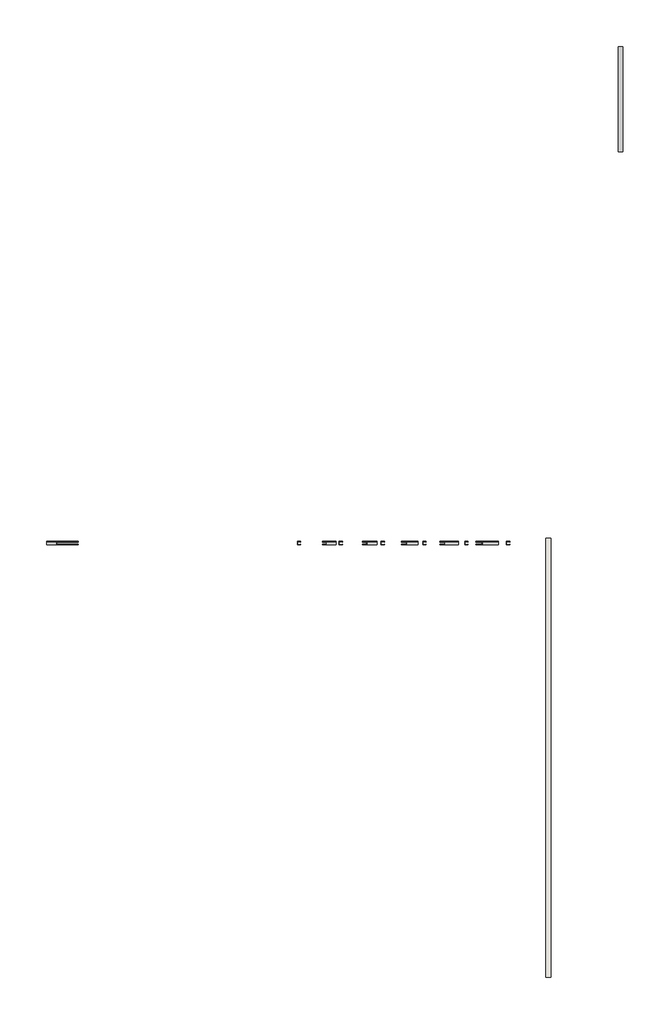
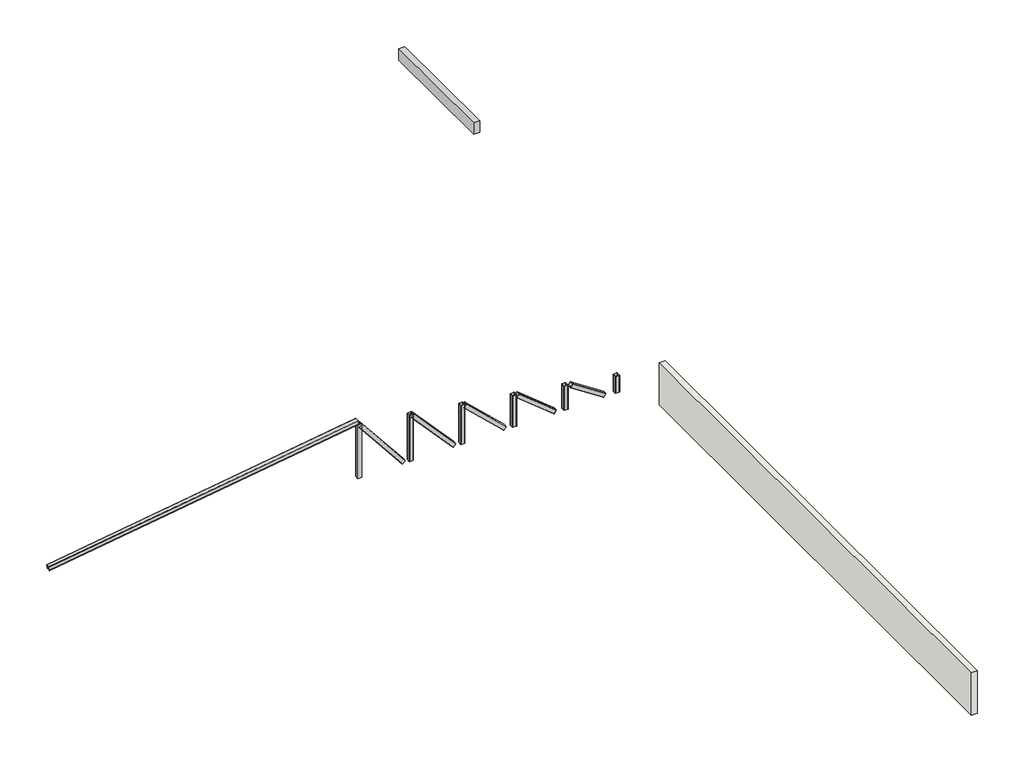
# One storey: 13 beams, 1 wall.
"""IFC4 building model written with IfcOpenShell, lengths in millimetres."""

from ifc_helpers import new_model, si_unit, frame, origin, place, context, project, spatial, polyline, circle_curve, ellipse_curve, outline, extrude, faceted_brep, transform, mapped, element, save
from ifc_brep_helpers import plane_surface, cylinder_surface, revolved_surface, advanced_brep
from components import viga_c_10x10_807e0190, viga_c_10x10_6c39ab91, viga_c_10x10_02f73f95, viga_c_10x10_16984cbe, viga_c_10x10_c70f78b9, viga_c_10x10_5042731d, viga_c_10x10_f4694822, viga_c_10x10_a6dcdae2, viga_c_10x10_49eaffbf, viga_c_10x10_ae3c0a91, viga_c_10x10_5618c6b7

model = new_model("IFC4")

# Units and contexts
model_context = context("Model", 3, world=origin())
ifc_project = project(units=[si_unit("LENGTHUNIT", "METRE", prefix="MILLI")], contexts=[model_context])

# Site, building, storey
site = spatial("IfcSite", under=ifc_project)
building = spatial("IfcBuilding", under=site)
storey = spatial("IfcBuildingStorey", under=building, Name="NÍVEL LAJE", Elevation=4000.0)

# Beams
placement = place(None, origin())
element("IfcBeam", 1, ObjectType="VIGA PERFIL C AÇO : VIGA C 10X10", at=placement, inside=storey, context=model_context, shape_type="SolidModel", body=[
    advanced_brep(
    [(-3864.3112112, 9465.0563425, 5156.3583218), (-3863.7475175, 9468.8563425, 5152.6003637), (-3850.0408597, 9468.8563425, 5061.2226447), (-3849.4771659, 9465.0563425, 5057.4646865), (-3849.4771659, 9448.8563425, 5057.4646865), (-3849.7590128, 9448.8563425, 5059.3436656), (-3849.7590128, 9465.0563425, 5059.3436656), (-3850.0408597, 9466.9563425, 5061.2226447), (-3863.7475175, 9466.9563425, 5152.6003637), (-3864.0293644, 9465.0563425, 5154.4793427), (-3864.0293644, 9372.6563425, 5154.4793427), (-3863.7475175, 9370.7563425, 5152.6003637), (-3850.0408597, 9370.7563425, 5061.2226447), (-3849.7590128, 9372.6563425, 5059.3436656), (-3849.7590128, 9388.8563425, 5059.3436656), (-3849.4771659, 9388.8563425, 5057.4646865), (-3849.4771659, 9372.6563425, 5057.4646865), (-3850.0408597, 9368.8563425, 5061.2226447), (-3863.7475175, 9368.8563425, 5152.6003637), (-3864.3112112, 9372.6563425, 5156.3583218), (3776.8201839, 9372.6563425, 6302.5280311), (3776.8201839, 9465.0563425, 6302.5280311), (3776.8201839, 9368.8563425, 6298.6855189), (3776.8201839, 9368.8563425, 6205.2518012), (3776.8201839, 9372.6563425, 6201.409289), (3776.8201839, 9388.8563425, 6201.409289), (3776.8201839, 9388.8563425, 6203.3305451), (3776.8201839, 9372.6563425, 6203.3305451), (3776.8201839, 9370.7563425, 6205.2518012), (3776.8201839, 9370.7563425, 6298.6855189), (3776.8201839, 9372.6563425, 6300.606775), (3776.8201839, 9465.0563425, 6300.606775), (3776.8201839, 9466.9563425, 6298.6855189), (3776.8201839, 9466.9563425, 6205.2518012), (3776.8201839, 9465.0563425, 6203.3305451), (3776.8201839, 9448.8563425, 6203.3305451), (3776.8201839, 9448.8563425, 6201.409289), (3776.8201839, 9465.0563425, 6201.409289), (3776.8201839, 9468.8563425, 6205.2518012), (3776.8201839, 9468.8563425, 6298.6855189)],
    [
        (0, 1, circle_curve(frame((-3863.7475175, 9465.0563425, 5152.6003637), z_axis=(-0.9889363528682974, 0.0, -0.14834045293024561), x_axis=(0.14834045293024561, 0.0, -0.9889363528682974)), 3.8)),
        (1, 2),
        (2, 3, circle_curve(frame((-3850.0408597, 9465.0563425, 5061.2226447), z_axis=(-0.9889363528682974, 0.0, -0.14834045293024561), x_axis=(0.14834045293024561, 0.0, -0.9889363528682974)), 3.8)),
        (3, 4),
        (4, 5),
        (5, 6),
        (6, 7, circle_curve(frame((-3850.0408597, 9465.0563425, 5061.2226447), z_axis=(0.9889363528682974, 0.0, 0.14834045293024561), x_axis=(0.14834045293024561, 0.0, -0.9889363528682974)), 1.9)),
        (7, 8),
        (8, 9, circle_curve(frame((-3863.7475175, 9465.0563425, 5152.6003637), z_axis=(0.9889363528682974, 0.0, 0.14834045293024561), x_axis=(0.14834045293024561, 0.0, -0.9889363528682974)), 1.9)),
        (9, 10),
        (10, 11, circle_curve(frame((-3863.7475175, 9372.6563425, 5152.6003637), z_axis=(0.9889363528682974, 0.0, 0.14834045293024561), x_axis=(0.14834045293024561, 0.0, -0.9889363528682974)), 1.9)),
        (11, 12),
        (12, 13, circle_curve(frame((-3850.0408597, 9372.6563425, 5061.2226447), z_axis=(0.9889363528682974, 0.0, 0.14834045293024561), x_axis=(0.14834045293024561, 0.0, -0.9889363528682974)), 1.9)),
        (13, 14),
        (14, 15),
        (15, 16),
        (16, 17, circle_curve(frame((-3850.0408597, 9372.6563425, 5061.2226447), z_axis=(-0.9889363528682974, 0.0, -0.14834045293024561), x_axis=(0.14834045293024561, 0.0, -0.9889363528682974)), 3.8)),
        (17, 18),
        (18, 19, circle_curve(frame((-3863.7475175, 9372.6563425, 5152.6003637), z_axis=(-0.9889363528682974, 0.0, -0.14834045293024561), x_axis=(0.14834045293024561, 0.0, -0.9889363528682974)), 3.8)),
        (19, 0),
        (20, 21),
        (21, 0),
        (19, 20),
        (22, 20, ellipse_curve(frame((3776.8201839, 9372.6563425, 6298.6855189), z_axis=(-1.0, 0.0, 0.0), x_axis=(0.0, 0.0, 1.0)), 3.8425122, 3.8)),
        (18, 22),
        (23, 22),
        (17, 23),
        (24, 23, ellipse_curve(frame((3776.8201839, 9372.6563425, 6205.2518012), z_axis=(-1.0, 0.0, 0.0), x_axis=(0.0, 0.0, 1.0)), 3.8425122, 3.8)),
        (16, 24),
        (25, 24),
        (15, 25),
        (26, 25),
        (14, 26),
        (27, 26),
        (13, 27),
        (28, 27, ellipse_curve(frame((3776.8201839, 9372.6563425, 6205.2518012), z_axis=(1.0, 0.0, 0.0), x_axis=(0.0, 0.0, -1.0)), 1.9212561, 1.9)),
        (12, 28),
        (29, 28),
        (11, 29),
        (30, 29, ellipse_curve(frame((3776.8201839, 9372.6563425, 6298.6855189), z_axis=(1.0, 0.0, 0.0), x_axis=(0.0, 0.0, -1.0)), 1.9212561, 1.9)),
        (10, 30),
        (31, 30),
        (9, 31),
        (32, 31, ellipse_curve(frame((3776.8201839, 9465.0563425, 6298.6855189), z_axis=(1.0, 0.0, 0.0), x_axis=(0.0, 0.0, -1.0)), 1.9212561, 1.9)),
        (8, 32),
        (33, 32),
        (7, 33),
        (34, 33, ellipse_curve(frame((3776.8201839, 9465.0563425, 6205.2518012), z_axis=(1.0, 0.0, 0.0), x_axis=(0.0, 0.0, -1.0)), 1.9212561, 1.9)),
        (6, 34),
        (35, 34),
        (5, 35),
        (36, 35),
        (4, 36),
        (37, 36),
        (3, 37),
        (38, 37, ellipse_curve(frame((3776.8201839, 9465.0563425, 6205.2518012), z_axis=(-1.0, 0.0, 0.0), x_axis=(0.0, 0.0, 1.0)), 3.8425122, 3.8)),
        (2, 38),
        (39, 38),
        (1, 39),
        (21, 39, ellipse_curve(frame((3776.8201839, 9465.0563425, 6298.6855189), z_axis=(-1.0, 0.0, 0.0), x_axis=(0.0, 0.0, 1.0)), 3.8425122, 3.8)),
    ],
    [
        plane_surface(frame((-3864.3112112, 9418.8563425, 5156.3583218), z_axis=(-0.9889363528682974, 0.0, -0.14834045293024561), x_axis=(0.0, -1.0, 0.0))),
        plane_surface(frame((3775.2221147, 9465.0563425, 6302.2883207), z_axis=(-0.14834045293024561, 0.0, 0.9889363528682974), x_axis=(-0.9889363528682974, 0.0, -0.14834045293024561))),
        cylinder_surface(frame((3775.7858084, 9372.6563425, 6298.5303625), z_axis=(0.9889363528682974, 0.0, 0.14834045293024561), x_axis=(0.14834045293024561, 0.0, -0.9889363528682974)), 3.8),
        plane_surface(frame((3775.7858084, 9368.8563425, 6298.5303625), z_axis=(0.0, -1.0, 0.0), x_axis=(-0.9889363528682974, 0.0, -0.14834045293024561))),
        cylinder_surface(frame((3789.4924662, 9372.6563425, 6207.1526435), z_axis=(0.9889363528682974, 0.0, 0.14834045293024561), x_axis=(0.14834045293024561, 0.0, -0.9889363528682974)), 3.8),
        plane_surface(frame((3790.05616, 9372.6563425, 6203.3946854), z_axis=(0.14834045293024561, 0.0, -0.9889363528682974), x_axis=(-0.9889363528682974, 0.0, -0.14834045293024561))),
        plane_surface(frame((3790.05616, 9388.8563425, 6203.3946854), z_axis=(0.0, 1.0, 0.0), x_axis=(-0.9889363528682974, 0.0, -0.14834045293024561))),
        plane_surface(frame((3789.7743131, 9388.8563425, 6205.2736645), z_axis=(-0.14834045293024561, 0.0, 0.9889363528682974), x_axis=(-0.9889363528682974, 0.0, -0.14834045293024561))),
        revolved_surface(polyline([(-3849.7590128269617, 9372.6563425, 5059.343665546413), (3777.3838776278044, 9372.6563425, 6203.415099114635)]), (3789.4924662, 9372.6563425, 6207.1526435), (-0.9889363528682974, 0.0, -0.14834045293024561)),
        plane_surface(frame((3789.4924662, 9370.7563425, 6207.1526435), z_axis=(0.0, 1.0, 0.0), x_axis=(-0.9889363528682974, 0.0, -0.14834045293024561))),
        revolved_surface(polyline([(-3863.4656706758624, 9372.6563425, 5150.721384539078), (3777.3838776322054, 9372.6563425, 6296.848816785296)]), (3775.7858084, 9372.6563425, 6298.5303625), (-0.9889363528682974, 0.0, -0.14834045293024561)),
        plane_surface(frame((3775.5039615, 9372.6563425, 6300.4093416), z_axis=(0.14834045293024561, 0.0, -0.9889363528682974), x_axis=(-0.9889363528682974, 0.0, -0.14834045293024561))),
        revolved_surface(polyline([(-3863.4656706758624, 9465.0563425, 5150.721384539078), (3777.3838776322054, 9465.0563425, 6296.848816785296)]), (3775.7858084, 9465.0563425, 6298.5303625), (-0.9889363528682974, 0.0, -0.14834045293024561)),
        plane_surface(frame((3775.7858084, 9466.9563425, 6298.5303625), z_axis=(0.0, -1.0, 0.0), x_axis=(-0.9889363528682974, 0.0, -0.14834045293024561))),
        revolved_surface(polyline([(-3849.7590128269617, 9465.0563425, 5059.343665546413), (3777.3838776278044, 9465.0563425, 6203.415099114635)]), (3789.4924662, 9465.0563425, 6207.1526435), (-0.9889363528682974, 0.0, -0.14834045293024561)),
        plane_surface(frame((3789.7743131, 9465.0563425, 6205.2736645), z_axis=(-0.14834045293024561, 0.0, 0.9889363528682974), x_axis=(-0.9889363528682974, 0.0, -0.14834045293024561))),
        plane_surface(frame((3789.7743131, 9448.8563425, 6205.2736645), z_axis=(0.0, -1.0, 0.0), x_axis=(-0.9889363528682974, 0.0, -0.14834045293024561))),
        plane_surface(frame((3790.05616, 9448.8563425, 6203.3946854), z_axis=(0.14834045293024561, 0.0, -0.9889363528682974), x_axis=(-0.9889363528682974, 0.0, -0.14834045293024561))),
        cylinder_surface(frame((3789.4924662, 9465.0563425, 6207.1526435), z_axis=(0.9889363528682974, 0.0, 0.14834045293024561), x_axis=(0.14834045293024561, 0.0, -0.9889363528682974)), 3.8),
        plane_surface(frame((3789.4924662, 9468.8563425, 6207.1526435), z_axis=(0.0, 1.0, 0.0), x_axis=(-0.9889363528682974, 0.0, -0.14834045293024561))),
        cylinder_surface(frame((3775.7858084, 9465.0563425, 6298.5303625), z_axis=(0.9889363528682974, 0.0, 0.14834045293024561), x_axis=(0.14834045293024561, 0.0, -0.9889363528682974)), 3.8),
        plane_surface(frame((3776.8201839, 9418.8563425, 6302.5280311), z_axis=(1.0, 0.0, 0.0), x_axis=(0.0, -1.0, 0.0))),
    ],
    [
        (0, [[1, 2, 3, 4, 5, 6, 7, 8, 9, 10, 11, 12, 13, 14, 15, 16, 17, 18, 19, 20]]),
        (1, [[21, 22, -20, 23]]),
        (2, [[24, -23, -19, 25]]),
        (3, [[26, -25, -18, 27]]),
        (4, [[28, -27, -17, 29]]),
        (5, [[30, -29, -16, 31]]),
        (6, [[32, -31, -15, 33]]),
        (7, [[34, -33, -14, 35]]),
        (8, [[36, -35, -13, 37]]),
        (9, [[38, -37, -12, 39]]),
        (10, [[40, -39, -11, 41]]),
        (11, [[42, -41, -10, 43]]),
        (12, [[44, -43, -9, 45]]),
        (13, [[46, -45, -8, 47]]),
        (14, [[48, -47, -7, 49]]),
        (15, [[50, -49, -6, 51]]),
        (16, [[52, -51, -5, 53]]),
        (17, [[54, -53, -4, 55]]),
        (18, [[56, -55, -3, 57]]),
        (19, [[58, -57, -2, 59]]),
        (20, [[60, -59, -1, -22]]),
        (21, [[-21, -24, -26, -28, -30, -32, -34, -36, -38, -40, -42, -44, -46, -48, -50, -52, -54, -56, -58, -60]]),
    ],
),
    faceted_brep([(-3864.3112112, 9468.8563425, 5156.3583218), (-3849.4771659, 9468.8563425, 5057.4646865), (-3849.4771659, 9448.8563425, 5057.4646865), (-3849.7590128, 9448.8563425, 5059.3436656), (-3849.7590128, 9466.9563425, 5059.3436656), (-3864.0293644, 9466.9563425, 5154.4793427), (-3864.0293644, 9370.7563425, 5154.4793427), (-3849.7590128, 9370.7563425, 5059.3436656), (-3849.7590128, 9388.8563425, 5059.3436656), (-3849.4771659, 9388.8563425, 5057.4646865), (-3849.4771659, 9368.8563425, 5057.4646865), (-3864.3112112, 9368.8563425, 5156.3583218), (3776.8201839, 9368.8563425, 6302.5280311), (3776.8201839, 9468.8563425, 6302.5280311), (3776.8201839, 9368.8563425, 6201.409289), (3776.8201839, 9388.8563425, 6201.409289), (3776.8201839, 9388.8563425, 6203.3305451), (3776.8201839, 9370.7563425, 6203.3305451), (3776.8201839, 9370.7563425, 6300.606775), (3776.8201839, 9466.9563425, 6300.606775), (3776.8201839, 9466.9563425, 6203.3305451), (3776.8201839, 9448.8563425, 6203.3305451), (3776.8201839, 9448.8563425, 6201.409289), (3776.8201839, 9468.8563425, 6201.409289)], [[[0, 1, 2, 3, 4, 5, 6, 7, 8, 9, 10, 11]], [[12, 13, 0, 11]], [[14, 12, 11, 10]], [[15, 14, 10, 9]], [[16, 15, 9, 8]], [[17, 16, 8, 7]], [[18, 17, 7, 6]], [[19, 18, 6, 5]], [[20, 19, 5, 4]], [[21, 20, 4, 3]], [[22, 21, 3, 2]], [[23, 22, 2, 1]], [[13, 23, 1, 0]], [[13, 12, 14, 15, 16, 17, 18, 19, 20, 21, 22, 23]]]),
])
viga_c_10x10_shape = viga_c_10x10_807e0190(model_context)
element("IfcBeam", 2, ObjectType="VIGA PERFIL C AÇO : VIGA C 10X10", at=placement, inside=storey, context=model_context, shape_type="MappedRepresentation", body=[
    mapped(viga_c_10x10_shape, transform((10143.4868505, 9418.8563425, 5019.1125534), x_axis=(0.0, 0.0, 1.0), y_axis=(-1.0, 0.0, 0.0), z_axis=(0.0, -1.0, 0.0))),
])
viga_c_10x10_2_shape = viga_c_10x10_6c39ab91(model_context)
element("IfcBeam", 3, ObjectType="VIGA PERFIL C AÇO : VIGA C 10X10", at=placement, inside=storey, context=model_context, shape_type="MappedRepresentation", body=[
    mapped(viga_c_10x10_2_shape, transform((8870.1535172, 9418.8563425, 5114.6125534), x_axis=(0.0, 0.0, 1.0), y_axis=(-1.0, 0.0, 0.0), z_axis=(0.0, -1.0, 0.0))),
])
viga_c_10x10_3_shape = viga_c_10x10_02f73f95(model_context)
element("IfcBeam", 4, ObjectType="VIGA PERFIL C AÇO : VIGA C 10X10", at=placement, inside=storey, context=model_context, shape_type="MappedRepresentation", body=[
    mapped(viga_c_10x10_3_shape, transform((7596.8201839, 9418.8563425, 5210.1125534), x_axis=(0.0, 0.0, 1.0), y_axis=(-1.0, 0.0, 0.0), z_axis=(0.0, -1.0, 0.0))),
])
viga_c_10x10_4_shape = viga_c_10x10_16984cbe(model_context)
element("IfcBeam", 5, ObjectType="VIGA PERFIL C AÇO : VIGA C 10X10", at=placement, inside=storey, context=model_context, shape_type="MappedRepresentation", body=[
    mapped(viga_c_10x10_4_shape, transform((6323.4868505, 9418.8563425, 5305.6125534), x_axis=(0.0, 0.0, 1.0), y_axis=(-1.0, 0.0, 0.0), z_axis=(0.0, -1.0, 0.0))),
])
viga_c_10x10_5_shape = viga_c_10x10_c70f78b9(model_context)
element("IfcBeam", 6, ObjectType="VIGA PERFIL C AÇO : VIGA C 10X10", at=placement, inside=storey, context=model_context, shape_type="MappedRepresentation", body=[
    mapped(viga_c_10x10_5_shape, transform((5050.1535172, 9418.8563425, 5401.1125534), x_axis=(0.0, 0.0, 1.0), y_axis=(-1.0, 0.0, 0.0), z_axis=(0.0, -1.0, 0.0))),
])
viga_c_10x10_6_shape = viga_c_10x10_5042731d(model_context)
element("IfcBeam", 7, ObjectType="VIGA PERFIL C AÇO : VIGA C 10X10", at=placement, inside=storey, context=model_context, shape_type="MappedRepresentation", body=[
    mapped(viga_c_10x10_6_shape, transform((3776.8201839, 9418.8563425, 5496.6125534), x_axis=(0.0, 0.0, 1.0), y_axis=(-1.0, 0.0, 0.0), z_axis=(0.0, -1.0, 0.0))),
])
viga_c_10x10_7_shape = viga_c_10x10_f4694822(model_context)
element("IfcBeam", 8, ObjectType="VIGA PERFIL C AÇO : VIGA C 10X10", at=placement, inside=storey, context=model_context, shape_type="MappedRepresentation", body=[
    mapped(viga_c_10x10_7_shape, transform((9506.8201839, 9418.8563425, 5114.6125534), x_axis=(0.83797466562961, 0.0, -0.5457091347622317), y_axis=(0.5457091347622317, 0.0, 0.83797466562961), z_axis=(0.0, -1.0, 0.0))),
])
viga_c_10x10_8_shape = viga_c_10x10_a6dcdae2(model_context)
element("IfcBeam", 9, ObjectType="VIGA PERFIL C AÇO : VIGA C 10X10", at=placement, inside=storey, context=model_context, shape_type="MappedRepresentation", body=[
    mapped(viga_c_10x10_8_shape, transform((8233.4868505, 9418.8563425, 5210.1125534), x_axis=(0.7804026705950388, 0.0, -0.6252772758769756), y_axis=(0.6252772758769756, 0.0, 0.7804026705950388), z_axis=(0.0, -1.0, 0.0))),
])
viga_c_10x10_9_shape = viga_c_10x10_49eaffbf(model_context)
element("IfcBeam", 10, ObjectType="VIGA PERFIL C AÇO : VIGA C 10X10", at=placement, inside=storey, context=model_context, shape_type="MappedRepresentation", body=[
    mapped(viga_c_10x10_9_shape, transform((6960.1535172, 9418.8563425, 5305.6125534), x_axis=(0.7245564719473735, 0.0, -0.6892154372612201), y_axis=(0.6892154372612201, 0.0, 0.7245564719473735), z_axis=(0.0, -1.0, 0.0))),
])
viga_c_10x10_10_shape = viga_c_10x10_ae3c0a91(model_context)
element("IfcBeam", 11, ObjectType="VIGA PERFIL C AÇO : VIGA C 10X10", at=placement, inside=storey, context=model_context, shape_type="MappedRepresentation", body=[
    mapped(viga_c_10x10_10_shape, transform((5686.8201839, 9418.8563425, 5401.1125534), x_axis=(0.6722631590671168, 0.0, -0.7403122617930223), y_axis=(0.7403122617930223, 0.0, 0.6722631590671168), z_axis=(0.0, -1.0, 0.0))),
])
viga_c_10x10_11_shape = viga_c_10x10_5618c6b7(model_context)
element("IfcBeam", 12, ObjectType="VIGA PERFIL C AÇO : VIGA C 10X10", at=placement, inside=storey, context=model_context, shape_type="MappedRepresentation", body=[
    mapped(viga_c_10x10_11_shape, transform((4413.4868505, 9418.8563425, 5496.6125534), x_axis=(0.6243222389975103, 0.0, -0.781166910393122), y_axis=(0.781166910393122, 0.0, 0.6243222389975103), z_axis=(0.0, -1.0, 0.0))),
])
element("IfcBeam", 13, ObjectType="VIGA CONCRETO : 15X30", at=placement, inside=storey, context=model_context, shape_type="SweptSolid", body=[
    extrude(outline(polyline([(13528.4025194, 24518.8563425), (13678.4025194, 24518.8563425), (13678.4025194, 21318.8563425), (13528.4025194, 21318.8563425), (13528.4025194, 24518.8563425)])), frame((0.0, 0.0, 3120.0), z_axis=(0.0, 0.0, 1.0), x_axis=(1.0, 0.0, 0.0)), (0.0, 0.0, 1.0), 300.0),
])

# Wall
element("IfcWall", 14, ObjectType="PAREDE BÁSICA 15 cm", at=placement, inside=storey, context=model_context, shape_type="SweptSolid", body=[
    extrude(outline(polyline([(11326.8201839, -3788.2411617), (11326.8201839, 9566.7588383), (11476.8201839, 9566.7588383), (11476.8201839, -3788.2411617), (11326.8201839, -3788.2411617)])), frame((0.0, 0.0, 3950.0), z_axis=(0.0, 0.0, 1.0), x_axis=(1.0, 0.0, 0.0)), (0.0, 0.0, 1.0), 1100.0),
])

save(model, "model.ifc")
